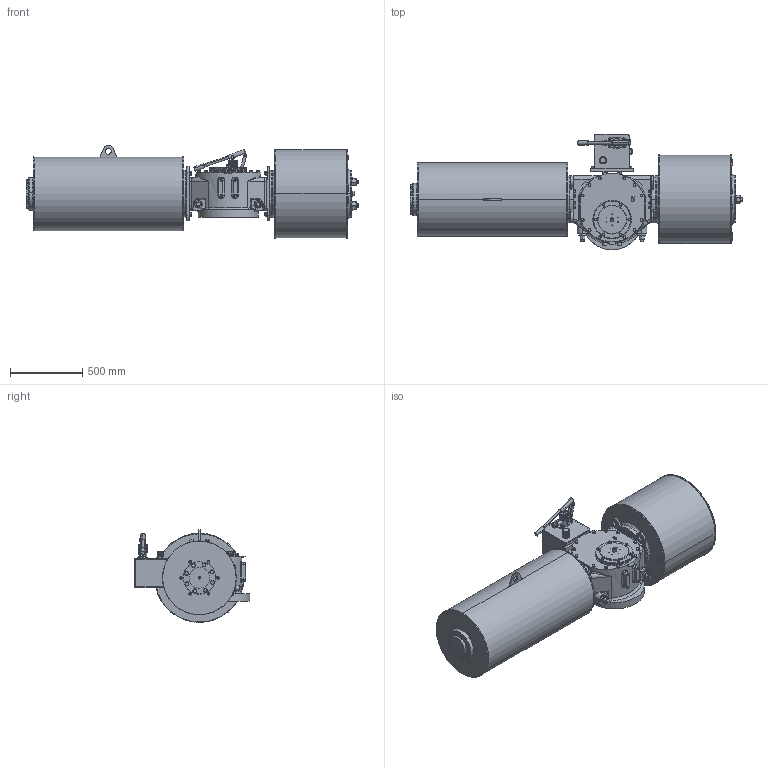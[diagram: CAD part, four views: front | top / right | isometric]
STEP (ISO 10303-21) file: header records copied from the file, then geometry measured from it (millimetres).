
FILE_DESCRIPTION (( 'STEP AP203' ), '1' );
FILE_NAME ('VTS5-600-SR-MH-FO.STEP', '2023-01-01T09:46:15', ( '' ), ( '' ), 'SwSTEP 2.0', 'SolidWorks 2020', '' );
FILE_SCHEMA (( 'CONFIG_CONTROL_DESIGN' ));
Length unit declared in the file: millimetre
Products named in the file (1): VTS5-600-SR-MH-FO
Bounding box: 2294 x 797.5 x 642 mm (x, y, z)
Volume: 437538021.7 mm3; surface area: 6583772.8 mm2
Topology: 52 solids, 54 shells, 3067 faces, 7684 edges, 4857 vertices
Faces by surface type: plane 1233, cylinder 1084, cone 655, bspline 95
Entity records: 105810 total; most frequent: CARTESIAN_POINT 32802, DIRECTION 15452, ORIENTED_EDGE 15160, EDGE_CURVE 7580, AXIS2_PLACEMENT_3D 6116, VERTEX_POINT 4857, EDGE_LOOP 3487, VECTOR 3220
